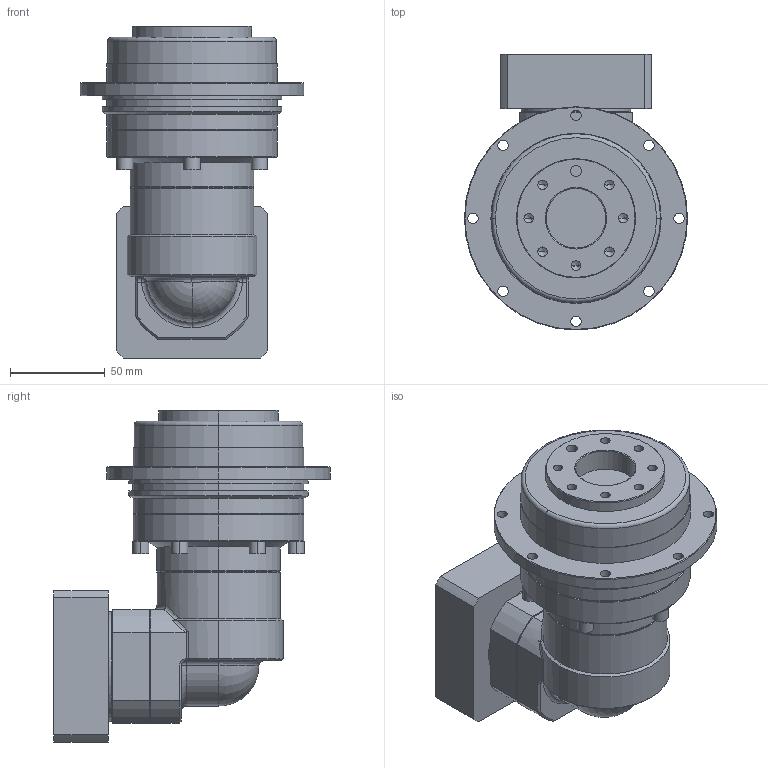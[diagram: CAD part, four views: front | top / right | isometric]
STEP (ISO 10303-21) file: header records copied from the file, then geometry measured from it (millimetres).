
FILE_DESCRIPTION (( 'STEP AP214' ), '1' );
FILE_NAME ('EVT090-L2-P2 19-70-90-M5.STEP', '2025-02-17T07:14:57', ( '微软用户' ), ( '微软中国' ), 'SwSTEP 2.0', 'SolidWorks 2021', '' );
FILE_SCHEMA (( 'AUTOMOTIVE_DESIGN' ));
Length unit declared in the file: millimetre
Products named in the file (1): EVT090-L2-P2 19-70-90-M5
Bounding box: 118 x 146 x 175.5 mm (x, y, z)
Volume: 940924.2 mm3; surface area: 96794.2 mm2
Topology: 1 solids, 1 shells, 288 faces, 696 edges, 426 vertices
Faces by surface type: cylinder 111, plane 108, cone 52, bspline 8, torus 7, sphere 2
Entity records: 9066 total; most frequent: CARTESIAN_POINT 2116, DIRECTION 1475, ORIENTED_EDGE 1360, EDGE_CURVE 680, AXIS2_PLACEMENT_3D 576, VERTEX_POINT 426, EDGE_LOOP 336, VECTOR 323
